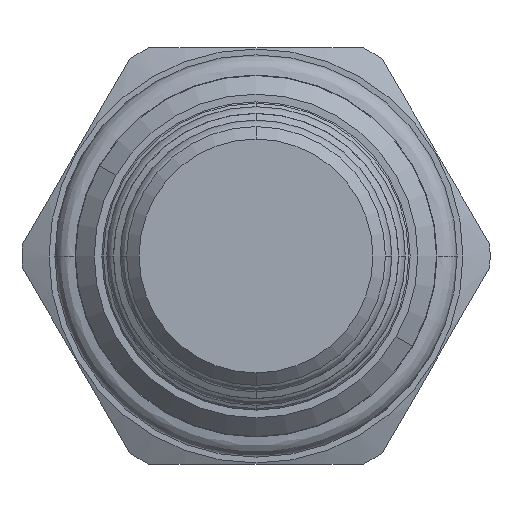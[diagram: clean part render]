
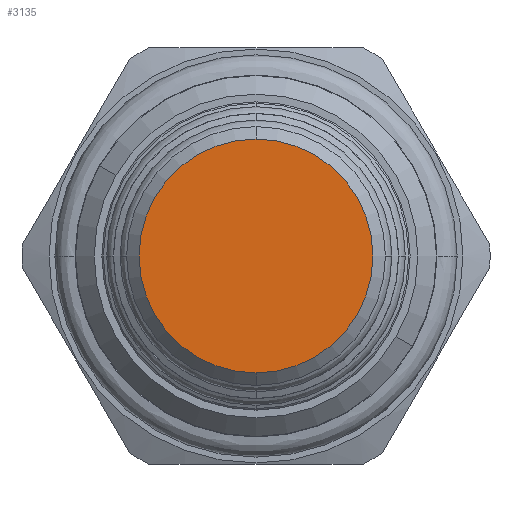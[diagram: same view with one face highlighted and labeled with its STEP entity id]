
A CAD part, front view. The second image highlights one B-rep face of the part: STEP entity #3135.
In plain terms, the highlighted planar face has unit normal (0, -1, 0).
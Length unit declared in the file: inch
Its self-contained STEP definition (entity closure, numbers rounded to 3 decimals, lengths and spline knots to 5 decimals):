
#1211=CARTESIAN_POINT('',(0.,-1.8135,0.));
#1212=DIRECTION('',(0.,-1.,0.));
#1213=DIRECTION('',(0.,0.,1.));
#1214=AXIS2_PLACEMENT_3D('',#1211,#1212,#1213);
#1216=CARTESIAN_POINT('',(0.,-1.8135,0.));
#1217=DIRECTION('',(0.,1.,0.));
#1218=DIRECTION('',(0.,0.,1.));
#1219=AXIS2_PLACEMENT_3D('',#1216,#1217,#1218);
#1288=CARTESIAN_POINT('',(0.,-1.8135,0.281));
#1290=VERTEX_POINT('',#1288);
#1304=CARTESIAN_POINT('',(0.,-1.8135,-0.281));
#1306=VERTEX_POINT('',#1304);
#3126=CARTESIAN_POINT('',(0.,-1.8135,0.));
#3127=DIRECTION('',(0.,1.,0.));
#3128=DIRECTION('',(0.,0.,-1.));
#3129=AXIS2_PLACEMENT_3D('',#3126,#3127,#3128);
#3130=PLANE('',#3129);
#3131=ORIENTED_EDGE('',*,*,#3119,.F.);
#3132=ORIENTED_EDGE('',*,*,#3108,.T.);
#3133=EDGE_LOOP('',(#3131,#3132));
#3134=FACE_OUTER_BOUND('',#3133,.F.);
#3135=ADVANCED_FACE('',(#3134),#3130,.F.);
#1215=CIRCLE('',#1214,0.281);
#1220=CIRCLE('',#1219,0.281);
#3108=EDGE_CURVE('',#1290,#1306,#1220,.T.);
#3119=EDGE_CURVE('',#1290,#1306,#1215,.T.);
